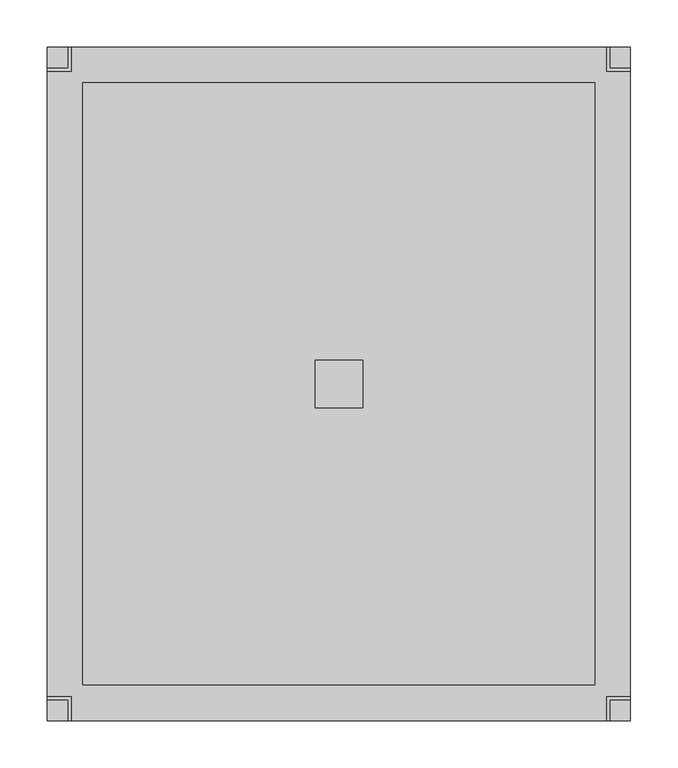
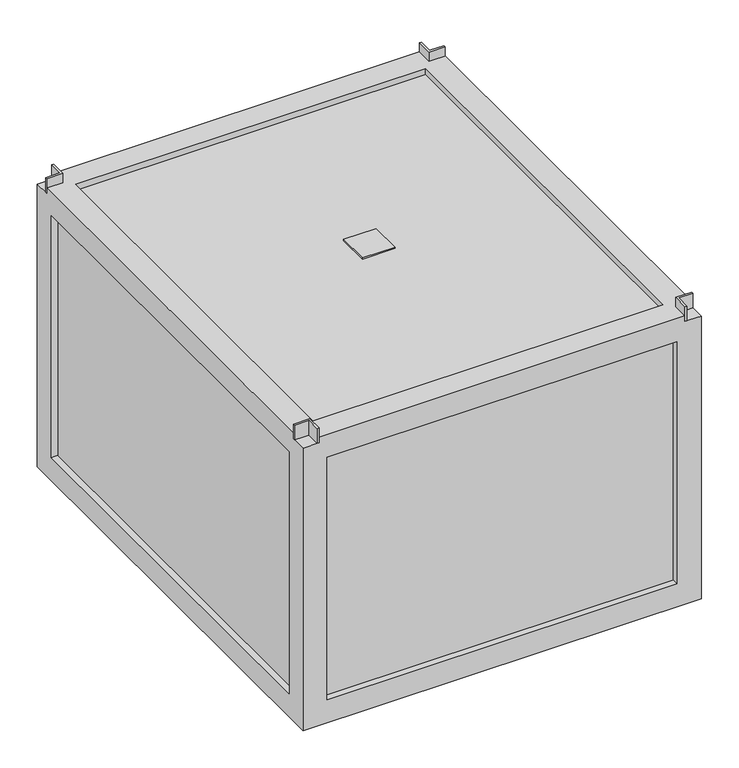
"""IFC4 building model written with IfcOpenShell, lengths in millimetres: proxy geometry, KORF_Вентилятор_UTR_WRH : UTR 50-25 WRH 22.4D."""

from ifc_helpers import new_model, si_unit, frame, origin, place, context, project, spatial, polyline, outline, extrude, faceted_brep, source, transform, mapped, element, save


def mechanical_equipment_a5b9c556(model_context):
    return source(origin(), model_context, "Body", "SolidModel", [
        extrude(outline(polyline([(282.5, -25.0), (282.5, 25.0), (332.5, 25.0), (332.5, -25.0), (282.5, -25.0)])), frame((0.0, 0.0, 235.0), z_axis=(0.0, 0.0, 1.0), x_axis=(1.0, 0.0, 0.0)), (0.0, 0.0, 1.0), 2.0),
        extrude(outline(polyline([(25.0, 330.0), (0.0, 330.0), (0.0, 333.0), (22.0, 333.0), (22.0, 355.0), (25.0, 355.0), (25.0, 330.0)])), frame((0.0, 0.0, 226.0), z_axis=(0.0, 0.0, 1.0), x_axis=(1.0, 0.0, 0.0)), (0.0, 0.0, 1.0), 24.0),
        extrude(outline(polyline([(590.0, 330.0), (590.0, 355.0), (593.0, 355.0), (593.0, 333.0), (615.0, 333.0), (615.0, 330.0), (590.0, 330.0)])), frame((0.0, 0.0, 226.0), z_axis=(0.0, 0.0, 1.0), x_axis=(1.0, 0.0, 0.0)), (0.0, 0.0, 1.0), 24.0),
        extrude(outline(polyline([(25.0, -330.0), (25.0, -355.0), (22.0, -355.0), (22.0, -333.0), (0.0, -333.0), (0.0, -330.0), (25.0, -330.0)])), frame((0.0, 0.0, 226.0), z_axis=(0.0, 0.0, 1.0), x_axis=(1.0, 0.0, 0.0)), (0.0, 0.0, 1.0), 24.0),
        extrude(outline(polyline([(590.0, -330.0), (615.0, -330.0), (615.0, -333.0), (593.0, -333.0), (593.0, -355.0), (590.0, -355.0), (590.0, -330.0)])), frame((0.0, 0.0, 226.0), z_axis=(0.0, 0.0, 1.0), x_axis=(1.0, 0.0, 0.0)), (0.0, 0.0, 1.0), 24.0),
        extrude(outline(polyline([(605.0, 345.0), (605.0, -345.0), (10.0, -345.0), (10.0, 345.0), (605.0, 345.0)])), frame((0.0, 0.0, -225.0), z_axis=(0.0, 0.0, 1.0), x_axis=(1.0, 0.0, 0.0)), (0.0, 0.0, 1.0), 450.0),
        faceted_brep([(0.0, -354.9999993, -234.9999993), (615.0, -354.9999993, -234.9999993), (614.9999993, -354.9999993, 226.0), (590.0, -354.9999993, 226.0), (590.0, -354.9999993, 235.0), (25.0, -354.9999993, 234.9999993), (25.0, -354.9999993, 226.0), (0.0, -354.9999993, 226.0), (37.5, -354.9999993, -197.4999993), (37.5, -354.9999993, 197.5), (577.4999993, -354.9999993, 197.5), (577.4999993, -354.9999993, -197.4999993), (10.000001, -344.9999993, -224.9999993), (10.000001, -344.9999993, 224.9999993), (604.9999993, -344.9999993, 224.999999), (604.999999, -344.9999993, -224.9999993), (37.5, -344.9999993, 197.5), (37.5, -344.9999993, -197.4999993), (577.4999993, -344.9999993, -197.4999993), (577.4999993, -344.9999993, 197.5), (0.0, -317.4999993, 197.4999993), (10.000001, -317.4999993, 197.4999993), (10.000001, -317.4999993, -197.4999993), (0.0, -317.4999993, -197.4999993), (0.0, 354.9999993, -234.9999993), (615.0, 355.0, -234.9999993), (577.5, -317.5, -234.9999993), (577.5, 317.5, -234.9999993), (37.5, 317.5, -234.9999993), (37.5, -317.5, -234.9999993), (10.000001, 344.9999993, -224.9999993), (604.999999, 344.999999, -224.9999993), (577.5, 317.5, -224.9999993), (577.5, -317.5, -224.9999993), (37.5, -317.5, -224.9999993), (37.5, 317.5, -224.9999993), (10.000001, 317.4999993, -197.4999993), (0.0, 317.4999993, -197.4999993), (0.0, 354.9999993, 226.0), (25.0, 354.9999993, 226.0), (25.0, 354.9999993, 234.9999993), (590.0, 354.9999993, 235.0), (590.0, 354.9999993, 226.0), (614.9999993, 354.9999993, 226.0), (37.5, 354.9999993, 197.5), (37.5, 354.9999993, -197.4999993), (577.4999993, 354.9999993, -197.4999993), (577.4999993, 354.9999993, 197.5), (10.000001, 344.9999993, 224.9999993), (604.9999993, 344.9999993, 224.999999), (37.5, 344.9999993, -197.4999993), (37.5, 344.9999993, 197.5), (577.4999993, 344.9999993, 197.5), (577.4999993, 344.9999993, -197.4999993), (10.000001, 317.4999993, 197.4999993), (0.0, 317.4999993, 197.4999993), (0.0, -330.0, 226.0), (0.0, -330.0, 234.9999993), (0.0, 330.0, 234.9999993), (0.0, 330.0, 226.0), (590.0, -330.0, 234.9999993), (614.9999993, -330.0, 234.9999993), (614.9999993, 330.0, 234.9999993), (590.0, 330.0, 234.9999993), (25.0, 330.0, 234.9999993), (25.0, -330.0, 234.9999993), (577.4999993, 317.4999993, 234.9999993), (577.4999993, -317.4999993, 234.9999993), (37.5000007, -317.4999993, 234.9999993), (37.5, 317.4999993, 234.9999993), (37.5, -317.4999993, 224.9999993), (37.5, 317.4999993, 224.9999993), (577.4999993, -317.4999993, 224.9999993), (577.4999993, 317.4999993, 224.9999993), (614.9999993, 330.0, 226.0), (614.9999993, -330.0, 226.0), (614.9999993, -317.5, -197.5), (614.9999993, -317.5, 197.5), (614.9999993, 317.5, 197.5), (614.9999993, 317.5, -197.5), (604.9999993, -317.5, 197.5), (604.9999993, -317.5, -197.5), (604.9999993, 317.5, -197.4999993), (604.9999993, 317.5, 197.5), (25.0, 330.0, 226.0), (590.0, 330.0, 226.0), (590.0, -330.0, 226.0), (25.0, -330.0, 226.0)], [[[0, 1, 2, 3, 4, 5, 6, 7], [8, 9, 10, 11]], [[12, 13, 14, 15], [16, 17, 18, 19]], [[20, 21, 22, 23]], [[0, 24, 25, 1], [26, 27, 28, 29]], [[30, 12, 15, 31], [32, 33, 34, 35]], [[23, 22, 36, 37]], [[25, 24, 38, 39, 40, 41, 42, 43], [44, 45, 46, 47]], [[48, 30, 31, 49], [50, 51, 52, 53]], [[37, 36, 54, 55]], [[24, 0, 7, 56, 57, 58, 59, 38], [20, 23, 37, 55]], [[5, 4, 60, 61, 62, 63, 41, 40, 64, 58, 57, 65], [66, 67, 68, 69]], [[35, 34, 29, 28]], [[69, 68, 70, 71]], [[16, 9, 8, 17]], [[44, 51, 50, 45]], [[13, 48, 49, 14], [72, 73, 71, 70]], [[12, 30, 48, 13], [22, 21, 54, 36]], [[21, 20, 55, 54]], [[1, 25, 43, 74, 62, 61, 75, 2], [76, 77, 78, 79]], [[14, 49, 31, 15], [80, 81, 82, 83]], [[66, 73, 72, 67]], [[67, 72, 70, 68]], [[9, 16, 19, 10]], [[51, 44, 47, 52]], [[80, 83, 78, 77]], [[73, 66, 69, 71]], [[32, 27, 26, 33]], [[33, 26, 29, 34]], [[27, 32, 35, 28]], [[17, 8, 11, 18]], [[45, 50, 53, 46]], [[76, 79, 82, 81]], [[77, 76, 81, 80]], [[79, 78, 83, 82]], [[11, 10, 19, 18]], [[47, 46, 53, 52]], [[59, 84, 39, 38]], [[42, 85, 74, 43]], [[75, 86, 3, 2]], [[87, 56, 7, 6]], [[84, 59, 58, 64]], [[39, 84, 64, 40]], [[85, 42, 41, 63]], [[74, 85, 63, 62]], [[86, 75, 61, 60]], [[3, 86, 60, 4]], [[56, 87, 65, 57]], [[87, 6, 5, 65]]]),
    ])


if __name__ == "__main__":
    model = new_model("IFC4")
    model_context = context("Model", 3, world=origin())
    ifc_project = project(units=[si_unit("LENGTHUNIT", "METRE", prefix="MILLI")], contexts=[model_context])
    site = spatial("IfcSite", under=ifc_project)
    building = spatial("IfcBuilding", under=site)
    placement = place(None, origin())
    mechanical_equipment_shape = mechanical_equipment_a5b9c556(model_context)
    element("IfcBuildingElementProxy", 1, Name="KORF_Вентилятор_UTR_WRH : UTR 50-25 WRH 22.4D", ObjectType="KORF_Вентилятор_UTR_WRH : UTR 50-25 WRH 22.4D", at=placement, inside=building, context=model_context, shape_type="MappedRepresentation", body=[
        mapped(mechanical_equipment_shape, transform((0.0, 0.0, 0.0), x_axis=(1.0, 0.0, 0.0), y_axis=(0.0, 1.0, 0.0), z_axis=(0.0, 0.0, 1.0))),
    ])
    save(model, "model.ifc")
